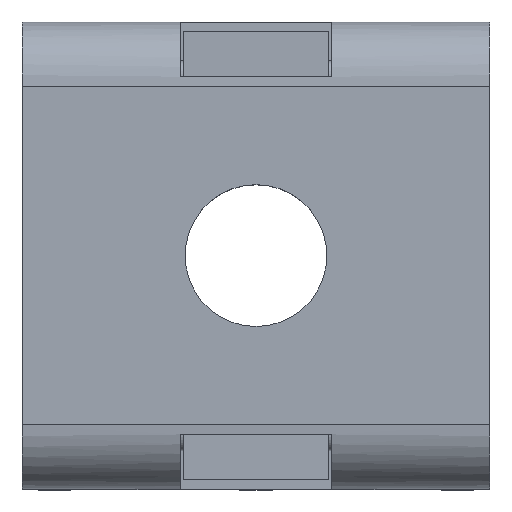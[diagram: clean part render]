
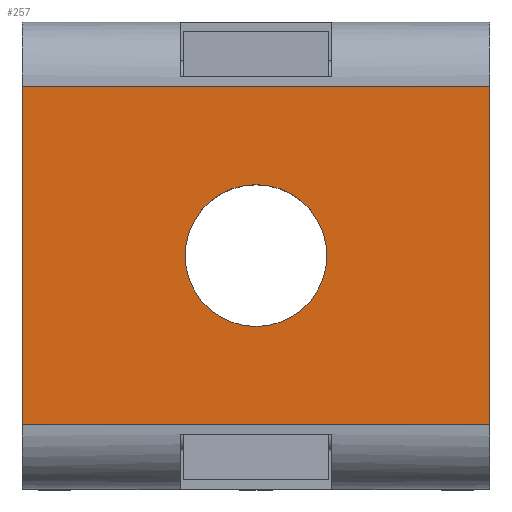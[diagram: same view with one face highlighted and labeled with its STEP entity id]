
A CAD part, top view. The second image highlights one B-rep face of the part: STEP entity #257.
In plain terms, the highlighted planar face has unit normal (0, 0, 1).
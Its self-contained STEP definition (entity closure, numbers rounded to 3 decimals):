
#107=FACE_BOUND('',#460,.T.);
#108=FACE_BOUND('',#461,.T.);
#206=CIRCLE('',#1793,2.2);
#257=ADVANCED_FACE('',(#107,#108),#321,.F.);
#321=PLANE('',#1794);
#460=EDGE_LOOP('',(#790));
#461=EDGE_LOOP('',(#791,#792,#793,#794));
#790=ORIENTED_EDGE('',*,*,#1299,.F.);
#791=ORIENTED_EDGE('',*,*,#1188,.T.);
#792=ORIENTED_EDGE('',*,*,#1265,.F.);
#793=ORIENTED_EDGE('',*,*,#1195,.F.);
#794=ORIENTED_EDGE('',*,*,#1291,.T.);
#1018=VERTEX_POINT('',#2428);
#1019=VERTEX_POINT('',#2430);
#1025=VERTEX_POINT('',#2443);
#1026=VERTEX_POINT('',#2445);
#1094=VERTEX_POINT('',#2641);
#1188=EDGE_CURVE('',#1019,#1018,#1403,.T.);
#1195=EDGE_CURVE('',#1025,#1026,#1408,.T.);
#1265=EDGE_CURVE('',#1026,#1018,#1453,.T.);
#1291=EDGE_CURVE('',#1025,#1019,#1469,.T.);
#1299=EDGE_CURVE('',#1094,#1094,#206,.T.);
#1403=LINE('',#2429,#1569);
#1408=LINE('',#2444,#1574);
#1453=LINE('',#2578,#1619);
#1469=LINE('',#2627,#1635);
#1569=VECTOR('',#1954,1.);
#1574=VECTOR('',#1965,1.);
#1619=VECTOR('',#2088,1.);
#1635=VECTOR('',#2136,1.);
#1793=AXIS2_PLACEMENT_3D('',#2640,#2153,#2154);
#1794=AXIS2_PLACEMENT_3D('',#2642,#2155,#2156);
#1954=DIRECTION('',(0.,-1.,0.));
#1965=DIRECTION('',(0.,-1.,0.));
#2088=DIRECTION('',(-1.,0.,0.));
#2136=DIRECTION('',(-1.,0.,0.));
#2153=DIRECTION('',(0.,0.,1.));
#2154=DIRECTION('',(0.,1.,0.));
#2155=DIRECTION('',(0.,0.,-1.));
#2156=DIRECTION('',(0.,1.,0.));
#2428=CARTESIAN_POINT('',(0.,2.,9.7));
#2429=CARTESIAN_POINT('',(0.,2.,9.7));
#2430=CARTESIAN_POINT('',(0.,12.5,9.7));
#2443=CARTESIAN_POINT('',(14.5,12.5,9.7));
#2444=CARTESIAN_POINT('',(14.5,2.,9.7));
#2445=CARTESIAN_POINT('',(14.5,2.,9.7));
#2578=CARTESIAN_POINT('',(14.5,2.,9.7));
#2627=CARTESIAN_POINT('',(14.5,12.5,9.7));
#2640=CARTESIAN_POINT('',(7.25,7.25,9.7));
#2641=CARTESIAN_POINT('',(5.05,7.25,9.7));
#2642=CARTESIAN_POINT('',(14.5,7.25,9.7));
